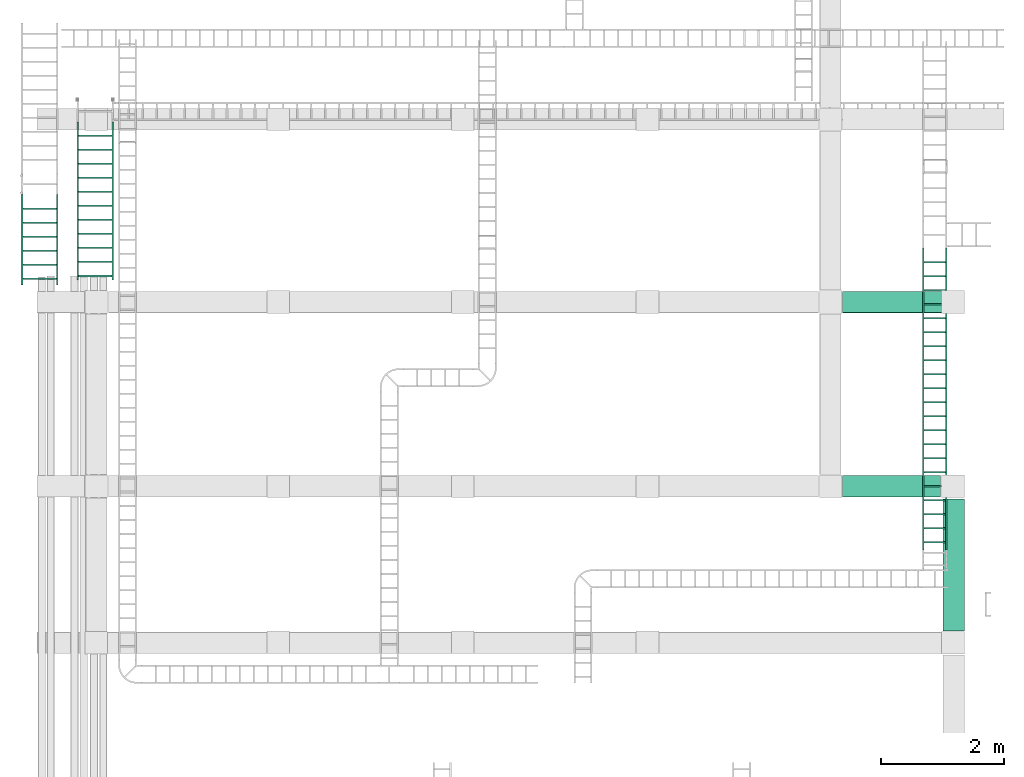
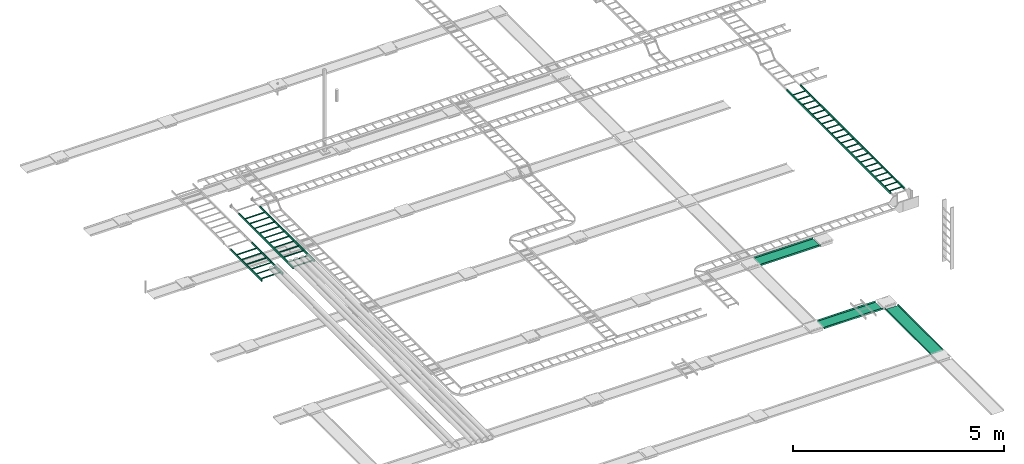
# One storey, part 8 of 16: 6 flow segments.
"""IFC2X3 building model written with IfcOpenShell, lengths in millimetres."""

from ifc_helpers import new_model, entity, si_unit, converted_unit, derived_unit, direction, frame, origin_with_axes, place, context, subcontext, project, spatial, open_shell, surface_model, source, transform, mapped, type_object, element, save


model = new_model("IFC2X3")

# Units and contexts
model_context = context("Model", 3, precision=0.01, world=frame((0.0, 4.29681676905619e-09, 0.0)), true_north=direction((4.01073788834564e-13, 1.0)))
plan_context = context("Plan", 3, precision=0.01, world=frame((0.0, 4.29681676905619e-09, 0.0)), true_north=direction((4.01073788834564e-13, 1.0)))
body_context = subcontext(model_context, "Body", "Model", "MODEL_VIEW")
ifc_project = project(units=[converted_unit("PLANEANGLEUNIT", "DEGREE", entity("IfcPositiveLengthMeasure", 0.0174532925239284), si_unit("PLANEANGLEUNIT", "RADIAN"), dimensions=[0, 0, 0, 0, 0, 0, 0]), si_unit("AREAUNIT", "SQUARE_METRE"), si_unit("LENGTHUNIT", "METRE", prefix="MILLI"), si_unit("MASSUNIT", "GRAM", prefix="KILO"), si_unit("POWERUNIT", "WATT"), si_unit("PRESSUREUNIT", "PASCAL"), si_unit("FORCEUNIT", "NEWTON", prefix="KILO"), si_unit("ELECTRICVOLTAGEUNIT", "VOLT"), si_unit("ELECTRICCURRENTUNIT", "AMPERE"), si_unit("THERMODYNAMICTEMPERATUREUNIT", "DEGREE_CELSIUS"), si_unit("TIMEUNIT", "SECOND"), si_unit("VOLUMEUNIT", "CUBIC_METRE"), derived_unit("LINEARVELOCITYUNIT", [(si_unit("LENGTHUNIT", "METRE"), 1), (si_unit("TIMEUNIT", "SECOND"), -1)]), derived_unit("VOLUMETRICFLOWRATEUNIT", [(si_unit("VOLUMEUNIT", "CUBIC_METRE"), 1), (si_unit("TIMEUNIT", "SECOND"), -1)]), derived_unit("THERMALTRANSMITTANCEUNIT", [(si_unit("POWERUNIT", "WATT"), 1), (si_unit("THERMODYNAMICTEMPERATUREUNIT", "KELVIN"), -1), (si_unit("AREAUNIT", "SQUARE_METRE"), -1)]), derived_unit("SOUNDPRESSUREUNIT", [(si_unit("PRESSUREUNIT", "PASCAL"), 1)])], contexts=[model_context, plan_context])

# Site, building, storey
site_placement = place(None, frame((0.0, -4.29681676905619e-09, 0.0), z_axis=(0.0, 0.0, 1.0), x_axis=(1.0, 0.0, 0.0)))
site = spatial("IfcSite", under=ifc_project, at=site_placement, Name="ENGM", CompositionType="ELEMENT")
building_placement = place(site_placement, frame((0.0, 4.29681676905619e-09, 0.0), z_axis=(0.0, 0.0, 1.0), x_axis=(1.0, 0.0, 0.0)))
building = spatial("IfcBuilding", under=site, at=building_placement, Name="TS", CompositionType="ELEMENT")
storey_placement = place(building_placement, frame((0.0, 0.0, 210900.0), z_axis=(0.0, 0.0, 1.0), x_axis=(1.0, 0.0, 0.0)))
storey = spatial("IfcBuildingStorey", under=building, at=storey_placement, Name="Nivå F", CompositionType="ELEMENT", Elevation=210900.0)

# Flow segments
cable_carrier_segment_type_1 = type_object("IfcCableCarrierSegmentType", Name="Kabelbro", PredefinedType="CABLELADDERSEGMENT")
shared_shape_1 = source(origin_with_axes(), body_context, "Body", "SurfaceModel", [
    surface_model("IfcShellBasedSurfaceModel", [(0.0, -300.0, -30.0), (0.0, -300.0, 30.0), (0.0, -274.60001, 30.0), (0.0, -274.60001, -30.0), (0.0, 274.60001, -30.0), (0.0, 274.60001, 30.0), (0.0, 300.0, 30.0), (0.0, 300.0, -30.0), (215.89999, -274.60001, -30.0), (241.30001, -274.60001, -30.0), (241.30001, -274.60001, -4.6), (215.89999, -274.60001, -4.6), (241.30001, 274.60001, -4.6), (241.30001, 274.60001, -30.0), (215.89999, 274.60001, -30.0), (215.89999, 274.60001, -4.6), (444.50001, -274.60001, -30.0), (469.89999, -274.60001, -30.0), (469.89999, -274.60001, -4.6), (444.50001, -274.60001, -4.6), (469.89999, 274.60001, -4.6), (469.89999, 274.60001, -30.0), (444.50001, 274.60001, -30.0), (444.50001, 274.60001, -4.6), (673.09998, -274.60001, -30.0), (698.50002, -274.60001, -30.0), (698.50002, -274.60001, -4.6), (673.09998, -274.60001, -4.6), (698.50002, 274.60001, -4.6), (698.50002, 274.60001, -30.0), (673.09998, 274.60001, -30.0), (673.09998, 274.60001, -4.6), (901.69998, -274.60001, -30.0), (927.10002, -274.60001, -30.0), (927.10002, -274.60001, -4.6), (901.69998, -274.60001, -4.6), (927.10002, 274.60001, -4.6), (927.10002, 274.60001, -30.0), (901.69998, 274.60001, -30.0), (901.69998, 274.60001, -4.6), (1130.29998, -274.60001, -30.0), (1155.70002, -274.60001, -30.0), (1155.70002, -274.60001, -4.6), (1130.29998, -274.60001, -4.6), (1155.70002, 274.60001, -4.6), (1155.70002, 274.60001, -30.0), (1130.29998, 274.60001, -30.0), (1130.29998, 274.60001, -4.6), (1358.90005, -274.60001, -30.0), (1384.29995, -274.60001, -30.0), (1384.29995, -274.60001, -4.6), (1358.90005, -274.60001, -4.6), (1384.29995, 274.60001, -4.6), (1384.29995, 274.60001, -30.0), (1358.90005, 274.60001, -30.0), (1358.90005, 274.60001, -4.6), (1472.79586, -274.60001, 30.0), (1472.79586, -300.0, 30.0), (1472.79586, -300.0, -30.0), (1472.79586, -274.60001, -30.0), (1472.79586, 300.0, 30.0), (1472.79586, 274.60001, 30.0), (1472.79586, 274.60001, -30.0), (1472.79586, 300.0, -30.0)], [open_shell([[[0, 1, 2]], [[2, 3, 0]], [[4, 5, 6]], [[6, 7, 4]], [[8, 9, 10]], [[10, 11, 8]], [[12, 13, 14]], [[14, 15, 12]], [[10, 9, 12]], [[13, 12, 9]], [[11, 10, 15]], [[12, 15, 10]], [[8, 11, 14]], [[15, 14, 11]], [[9, 8, 13]], [[14, 13, 8]], [[16, 17, 18]], [[18, 19, 16]], [[20, 21, 22]], [[22, 23, 20]], [[18, 17, 20]], [[21, 20, 17]], [[19, 18, 23]], [[20, 23, 18]], [[16, 19, 22]], [[23, 22, 19]], [[17, 16, 21]], [[22, 21, 16]], [[24, 25, 26]], [[26, 27, 24]], [[28, 29, 30]], [[30, 31, 28]], [[26, 25, 28]], [[29, 28, 25]], [[27, 26, 31]], [[28, 31, 26]], [[24, 27, 30]], [[31, 30, 27]], [[25, 24, 29]], [[30, 29, 24]], [[32, 33, 34]], [[34, 35, 32]], [[36, 37, 38]], [[38, 39, 36]], [[34, 33, 36]], [[37, 36, 33]], [[35, 34, 39]], [[36, 39, 34]], [[32, 35, 38]], [[39, 38, 35]], [[33, 32, 37]], [[38, 37, 32]], [[40, 41, 42]], [[42, 43, 40]], [[44, 45, 46]], [[46, 47, 44]], [[42, 41, 44]], [[45, 44, 41]], [[43, 42, 47]], [[44, 47, 42]], [[40, 43, 46]], [[47, 46, 43]], [[41, 40, 45]], [[46, 45, 40]], [[48, 49, 50]], [[50, 51, 48]], [[52, 53, 54]], [[54, 55, 52]], [[50, 49, 52]], [[53, 52, 49]], [[51, 50, 55]], [[52, 55, 50]], [[48, 51, 54]], [[55, 54, 51]], [[49, 48, 53]], [[54, 53, 48]], [[56, 57, 58]], [[58, 59, 56]], [[60, 61, 62]], [[62, 63, 60]], [[1, 0, 57]], [[58, 57, 0]], [[2, 1, 57]], [[57, 56, 2]], [[3, 2, 59]], [[56, 59, 2]], [[0, 3, 59]], [[59, 58, 0]], [[7, 6, 63]], [[60, 63, 6]], [[4, 7, 63]], [[63, 62, 4]], [[5, 4, 61]], [[62, 61, 4]], [[6, 5, 61]], [[61, 60, 6]]])]),
])
flow_segment_1_placement = place(storey_placement, frame((520589.0125, 450766.9625, 3925.0), z_axis=(0.0, 0.0, 1.0), x_axis=(0.0, -1.0, 0.0)))
element("IfcFlowSegment", 1, at=flow_segment_1_placement, inside=storey, type_object=cable_carrier_segment_type_1, Name="Kabelbro", context=body_context, shape_type="MappedRepresentation", body=[
    mapped(shared_shape_1, transform((0.0, 0.0, 0.0), scale=1.0)),
])
shared_shape_2 = source(origin_with_axes(), body_context, "Body", "SurfaceModel", [
    surface_model("IfcShellBasedSurfaceModel", [(0.0, -300.0, -30.0), (0.0, -300.0, 30.0), (0.0, -274.60001, 30.0), (0.0, -274.60001, -30.0), (0.0, 274.60001, -30.0), (0.0, 274.60001, 30.0), (0.0, 300.0, 30.0), (0.0, 300.0, -30.0), (215.89999, -274.60001, -30.0), (241.30001, -274.60001, -30.0), (241.30001, -274.60001, -4.6), (215.89999, -274.60001, -4.6), (241.30001, 274.60001, -4.6), (241.30001, 274.60001, -30.0), (215.89999, 274.60001, -30.0), (215.89999, 274.60001, -4.6), (444.50001, -274.60001, -30.0), (469.89999, -274.60001, -30.0), (469.89999, -274.60001, -4.6), (444.50001, -274.60001, -4.6), (469.89999, 274.60001, -4.6), (469.89999, 274.60001, -30.0), (444.50001, 274.60001, -30.0), (444.50001, 274.60001, -4.6), (673.09998, -274.60001, -30.0), (698.50002, -274.60001, -30.0), (698.50002, -274.60001, -4.6), (673.09998, -274.60001, -4.6), (698.50002, 274.60001, -4.6), (698.50002, 274.60001, -30.0), (673.09998, 274.60001, -30.0), (673.09998, 274.60001, -4.6), (901.69998, -274.60001, -30.0), (927.10002, -274.60001, -30.0), (927.10002, -274.60001, -4.6), (901.69998, -274.60001, -4.6), (927.10002, 274.60001, -4.6), (927.10002, 274.60001, -30.0), (901.69998, 274.60001, -30.0), (901.69998, 274.60001, -4.6), (1130.29998, -274.60001, -30.0), (1155.70002, -274.60001, -30.0), (1155.70002, -274.60001, -4.6), (1130.29998, -274.60001, -4.6), (1155.70002, 274.60001, -4.6), (1155.70002, 274.60001, -30.0), (1130.29998, 274.60001, -30.0), (1130.29998, 274.60001, -4.6), (1358.90005, -274.60001, -30.0), (1384.29995, -274.60001, -30.0), (1384.29995, -274.60001, -4.6), (1358.90005, -274.60001, -4.6), (1384.29995, 274.60001, -4.6), (1384.29995, 274.60001, -30.0), (1358.90005, 274.60001, -30.0), (1358.90005, 274.60001, -4.6), (1587.50005, -274.60001, -30.0), (1612.89995, -274.60001, -30.0), (1612.89995, -274.60001, -4.6), (1587.50005, -274.60001, -4.6), (1612.89995, 274.60001, -4.6), (1612.89995, 274.60001, -30.0), (1587.50005, 274.60001, -30.0), (1587.50005, 274.60001, -4.6), (1816.10005, -274.60001, -30.0), (1841.49995, -274.60001, -30.0), (1841.49995, -274.60001, -4.6), (1816.10005, -274.60001, -4.6), (1841.49995, 274.60001, -4.6), (1841.49995, 274.60001, -30.0), (1816.10005, 274.60001, -30.0), (1816.10005, 274.60001, -4.6), (2044.70005, -274.60001, -30.0), (2070.09995, -274.60001, -30.0), (2070.09995, -274.60001, -4.6), (2044.70005, -274.60001, -4.6), (2070.09995, 274.60001, -4.6), (2070.09995, 274.60001, -30.0), (2044.70005, 274.60001, -30.0), (2044.70005, 274.60001, -4.6), (2273.30005, -274.60001, -30.0), (2298.69995, -274.60001, -30.0), (2298.69995, -274.60001, -4.6), (2273.30005, -274.60001, -4.6), (2298.69995, 274.60001, -4.6), (2298.69995, 274.60001, -30.0), (2273.30005, 274.60001, -30.0), (2273.30005, 274.60001, -4.6), (2501.8999, -274.60001, -30.0), (2527.3001, -274.60001, -30.0), (2527.3001, -274.60001, -4.6), (2501.8999, -274.60001, -4.6), (2527.3001, 274.60001, -4.6), (2527.3001, 274.60001, -30.0), (2501.8999, 274.60001, -30.0), (2501.8999, 274.60001, -4.6), (2580.25355, -274.60001, 30.0), (2580.25355, -300.0, 30.0), (2580.25355, -300.0, -30.0), (2580.25355, -274.60001, -30.0), (2580.25355, 300.0, 30.0), (2580.25355, 274.60001, 30.0), (2580.25355, 274.60001, -30.0), (2580.25355, 300.0, -30.0)], [open_shell([[[0, 1, 2]], [[2, 3, 0]], [[4, 5, 6]], [[6, 7, 4]], [[8, 9, 10]], [[10, 11, 8]], [[12, 13, 14]], [[14, 15, 12]], [[10, 9, 12]], [[13, 12, 9]], [[11, 10, 15]], [[12, 15, 10]], [[8, 11, 14]], [[15, 14, 11]], [[9, 8, 13]], [[14, 13, 8]], [[16, 17, 18]], [[18, 19, 16]], [[20, 21, 22]], [[22, 23, 20]], [[18, 17, 20]], [[21, 20, 17]], [[19, 18, 23]], [[20, 23, 18]], [[16, 19, 22]], [[23, 22, 19]], [[17, 16, 21]], [[22, 21, 16]], [[24, 25, 26]], [[26, 27, 24]], [[28, 29, 30]], [[30, 31, 28]], [[26, 25, 28]], [[29, 28, 25]], [[27, 26, 31]], [[28, 31, 26]], [[24, 27, 30]], [[31, 30, 27]], [[25, 24, 29]], [[30, 29, 24]], [[32, 33, 34]], [[34, 35, 32]], [[36, 37, 38]], [[38, 39, 36]], [[34, 33, 36]], [[37, 36, 33]], [[35, 34, 39]], [[36, 39, 34]], [[32, 35, 38]], [[39, 38, 35]], [[33, 32, 37]], [[38, 37, 32]], [[40, 41, 42]], [[42, 43, 40]], [[44, 45, 46]], [[46, 47, 44]], [[42, 41, 44]], [[45, 44, 41]], [[43, 42, 47]], [[44, 47, 42]], [[40, 43, 46]], [[47, 46, 43]], [[41, 40, 45]], [[46, 45, 40]], [[48, 49, 50]], [[50, 51, 48]], [[52, 53, 54]], [[54, 55, 52]], [[50, 49, 52]], [[53, 52, 49]], [[51, 50, 55]], [[52, 55, 50]], [[48, 51, 54]], [[55, 54, 51]], [[49, 48, 53]], [[54, 53, 48]], [[56, 57, 58]], [[58, 59, 56]], [[60, 61, 62]], [[62, 63, 60]], [[58, 57, 60]], [[61, 60, 57]], [[59, 58, 63]], [[60, 63, 58]], [[56, 59, 62]], [[63, 62, 59]], [[57, 56, 61]], [[62, 61, 56]], [[64, 65, 66]], [[66, 67, 64]], [[68, 69, 70]], [[70, 71, 68]], [[66, 65, 68]], [[69, 68, 65]], [[67, 66, 71]], [[68, 71, 66]], [[64, 67, 70]], [[71, 70, 67]], [[65, 64, 69]], [[70, 69, 64]], [[72, 73, 74]], [[74, 75, 72]], [[76, 77, 78]], [[78, 79, 76]], [[74, 73, 76]], [[77, 76, 73]], [[75, 74, 79]], [[76, 79, 74]], [[72, 75, 78]], [[79, 78, 75]], [[73, 72, 77]], [[78, 77, 72]], [[80, 81, 82]], [[82, 83, 80]], [[84, 85, 86]], [[86, 87, 84]], [[82, 81, 84]], [[85, 84, 81]], [[83, 82, 87]], [[84, 87, 82]], [[80, 83, 86]], [[87, 86, 83]], [[81, 80, 85]], [[86, 85, 80]], [[88, 89, 90]], [[90, 91, 88]], [[92, 93, 94]], [[94, 95, 92]], [[90, 89, 92]], [[93, 92, 89]], [[91, 90, 95]], [[92, 95, 90]], [[88, 91, 94]], [[95, 94, 91]], [[89, 88, 93]], [[94, 93, 88]], [[96, 97, 98]], [[98, 99, 96]], [[100, 101, 102]], [[102, 103, 100]], [[1, 0, 98]], [[98, 97, 1]], [[2, 1, 97]], [[97, 96, 2]], [[3, 2, 96]], [[96, 99, 3]], [[0, 3, 99]], [[99, 98, 0]], [[7, 6, 100]], [[100, 103, 7]], [[4, 7, 103]], [[103, 102, 4]], [[5, 4, 102]], [[102, 101, 5]], [[6, 5, 101]], [[101, 100, 6]]])]),
])
flow_segment_2_placement = place(storey_placement, frame((521496.73076, 451954.42016, 3925.0), z_axis=(0.0, 0.0, 1.0), x_axis=(0.0, -1.0, 0.0)))
element("IfcFlowSegment", 2, at=flow_segment_2_placement, inside=storey, type_object=cable_carrier_segment_type_1, Name="Kabelbro", context=body_context, shape_type="MappedRepresentation", body=[
    mapped(shared_shape_2, transform((0.0, 0.0, 0.0), scale=1.0)),
])
cable_carrier_segment_type_2 = type_object("IfcCableCarrierSegmentType", Name="Kabelbane", PredefinedType="CABLETRAYSEGMENT")
shared_shape_3 = source(origin_with_axes(), body_context, "Body", "SurfaceModel", [
    surface_model("IfcShellBasedSurfaceModel", [(0.0, -175.0, 25.0), (0.0, -172.46, -22.46), (0.0, -175.0, -25.0), (0.0, 175.0, -25.0), (0.0, -172.46, 25.0), (0.0, 175.0, 25.0), (0.0, 172.46, -22.46), (0.0, 172.46, 25.0), (1625.79001, -175.0, -25.0), (1625.79001, -172.46, -22.46), (1625.79001, -175.0, 25.0), (1625.79001, 175.0, -25.0), (1625.79001, -172.46, 25.0), (1625.79001, 172.46, -22.46), (1625.79001, 175.0, 25.0), (1625.79001, 172.46, 25.0)], [open_shell([[[0, 1, 2]], [[3, 2, 1]], [[1, 0, 4]], [[5, 3, 6]], [[1, 6, 3]], [[6, 7, 5]], [[8, 9, 10]], [[9, 8, 11]], [[12, 10, 9]], [[13, 11, 14]], [[11, 13, 9]], [[14, 15, 13]], [[0, 2, 8]], [[8, 10, 0]], [[4, 0, 12]], [[10, 12, 0]], [[1, 4, 9]], [[12, 9, 4]], [[6, 1, 13]], [[9, 13, 1]], [[7, 6, 15]], [[13, 15, 6]], [[5, 7, 14]], [[15, 14, 7]], [[3, 5, 14]], [[14, 11, 3]], [[2, 3, 11]], [[11, 8, 2]]])]),
])
flow_segment_3_placement = place(storey_placement, frame((533684.50798, 449014.16475, -35.0), z_axis=(0.0, 0.0, 1.0), x_axis=(1.0, 0.0, 0.0)))
element("IfcFlowSegment", 3, at=flow_segment_3_placement, inside=storey, type_object=cable_carrier_segment_type_2, Name="Kabelbane", context=body_context, shape_type="MappedRepresentation", body=[
    mapped(shared_shape_3, transform((0.0, 0.0, 0.0), scale=1.0)),
])
shared_shape_4 = source(origin_with_axes(), body_context, "Body", "SurfaceModel", [
    surface_model("IfcShellBasedSurfaceModel", [(0.0, -175.0, 25.0), (0.0, -172.46, -22.46), (0.0, -175.0, -25.0), (0.0, -172.46, 25.0), (0.0, 175.0, 25.0), (0.0, 175.0, -25.0), (0.0, 172.46, -22.46), (0.0, 172.46, 25.0), (1600.00001, 175.0, 25.0), (1600.00001, 172.46, 25.0), (1600.00001, 172.46, -22.46), (1600.00001, 175.0, -25.0), (1600.00001, -175.0, -25.0), (1600.00001, -172.46, 25.0), (1600.00001, -175.0, 25.0), (1600.00001, -172.46, -22.46)], [open_shell([[[0, 1, 2]], [[1, 0, 3]], [[4, 5, 6]], [[6, 7, 4]], [[2, 6, 5]], [[6, 2, 1]], [[8, 9, 10]], [[11, 10, 12]], [[10, 11, 8]], [[13, 14, 15]], [[15, 12, 10]], [[12, 15, 14]], [[0, 2, 14]], [[12, 14, 2]], [[3, 0, 13]], [[14, 13, 0]], [[1, 3, 13]], [[13, 15, 1]], [[6, 1, 15]], [[15, 10, 6]], [[7, 6, 10]], [[10, 9, 7]], [[4, 7, 8]], [[9, 8, 7]], [[5, 4, 11]], [[8, 11, 4]], [[2, 5, 12]], [[11, 12, 5]]])]),
])
flow_segment_4_placement = place(storey_placement, frame((533684.50798, 446009.60271, -35.0), z_axis=(0.0, 0.0, 1.0), x_axis=(1.0, 0.0, 0.0)))
element("IfcFlowSegment", 4, at=flow_segment_4_placement, inside=storey, type_object=cable_carrier_segment_type_2, Name="Kabelbane", context=body_context, shape_type="MappedRepresentation", body=[
    mapped(shared_shape_4, transform((0.0, 0.0, 0.0), scale=1.0)),
])
shared_shape_5 = source(origin_with_axes(), body_context, "Body", "SurfaceModel", [
    surface_model("IfcShellBasedSurfaceModel", [(0.0, -175.0, 25.0), (0.0, -172.46, -22.46), (0.0, -175.0, -25.0), (0.0, 175.0, -25.0), (0.0, -172.46, 25.0), (0.0, 175.0, 25.0), (0.0, 172.46, -22.46), (0.0, 172.46, 25.0), (2155.0, -172.46, 25.0), (2155.0, -175.0, 25.0), (2155.0, -172.46, -22.46), (2155.0, 175.0, 25.0), (2155.0, 172.46, 25.0), (2155.0, 172.46, -22.46), (2155.0, -175.0, -25.0), (2155.0, 175.0, -25.0)], [open_shell([[[0, 1, 2]], [[3, 2, 1]], [[1, 0, 4]], [[5, 3, 6]], [[1, 6, 3]], [[6, 7, 5]], [[8, 9, 10]], [[11, 12, 13]], [[10, 14, 15]], [[14, 10, 9]], [[13, 15, 11]], [[15, 13, 10]], [[0, 2, 9]], [[14, 9, 2]], [[4, 0, 8]], [[9, 8, 0]], [[1, 4, 8]], [[8, 10, 1]], [[6, 1, 10]], [[10, 13, 6]], [[7, 6, 13]], [[13, 12, 7]], [[5, 7, 11]], [[12, 11, 7]], [[3, 5, 15]], [[11, 15, 5]], [[2, 3, 15]], [[15, 14, 2]]])]),
])
flow_segment_5_placement = place(storey_placement, frame((535500.29798, 445804.42977, -35.0), z_axis=(0.0, 0.0, 1.0), x_axis=(0.0, -1.0, 0.0)))
element("IfcFlowSegment", 5, at=flow_segment_5_placement, inside=storey, type_object=cable_carrier_segment_type_2, Name="Kabelbane", context=body_context, shape_type="MappedRepresentation", body=[
    mapped(shared_shape_5, transform((0.0, 0.0, 0.0), scale=1.0)),
])
shared_shape_6 = source(origin_with_axes(), body_context, "Body", "SurfaceModel", [
    surface_model("IfcShellBasedSurfaceModel", [(0.0, -174.60001, 30.0), (0.0, -174.60001, -30.0), (0.0, -200.0, -30.0), (0.0, -200.0, 30.0), (0.0, 200.0, 30.0), (0.0, 200.0, -30.0), (0.0, 174.60001, -30.0), (0.0, 174.60001, 30.0), (215.89999, -174.60001, -30.0), (241.30001, -174.60001, -30.0), (241.30001, -174.60001, -4.6), (215.89999, -174.60001, -4.6), (241.30001, 174.60001, -4.6), (241.30001, 174.60001, -30.0), (215.89999, 174.60001, -30.0), (215.89999, 174.60001, -4.6), (444.50001, -174.60001, -30.0), (469.89999, -174.60001, -30.0), (469.89999, -174.60001, -4.6), (444.50001, -174.60001, -4.6), (469.89999, 174.60001, -4.6), (469.89999, 174.60001, -30.0), (444.50001, 174.60001, -30.0), (444.50001, 174.60001, -4.6), (673.09998, -174.60001, -30.0), (698.50002, -174.60001, -30.0), (698.50002, -174.60001, -4.6), (673.09998, -174.60001, -4.6), (698.50002, 174.60001, -4.6), (698.50002, 174.60001, -30.0), (673.09998, 174.60001, -30.0), (673.09998, 174.60001, -4.6), (901.69998, -174.60001, -30.0), (927.10002, -174.60001, -30.0), (927.10002, -174.60001, -4.6), (901.69998, -174.60001, -4.6), (927.10002, 174.60001, -4.6), (927.10002, 174.60001, -30.0), (901.69998, 174.60001, -30.0), (901.69998, 174.60001, -4.6), (1130.29998, -174.60001, -30.0), (1155.70002, -174.60001, -30.0), (1155.70002, -174.60001, -4.6), (1130.29998, -174.60001, -4.6), (1155.70002, 174.60001, -4.6), (1155.70002, 174.60001, -30.0), (1130.29998, 174.60001, -30.0), (1130.29998, 174.60001, -4.6), (1358.90005, -174.60001, -30.0), (1384.29995, -174.60001, -30.0), (1384.29995, -174.60001, -4.6), (1358.90005, -174.60001, -4.6), (1384.29995, 174.60001, -4.6), (1384.29995, 174.60001, -30.0), (1358.90005, 174.60001, -30.0), (1358.90005, 174.60001, -4.6), (1587.50005, -174.60001, -30.0), (1612.89995, -174.60001, -30.0), (1612.89995, -174.60001, -4.6), (1587.50005, -174.60001, -4.6), (1612.89995, 174.60001, -4.6), (1612.89995, 174.60001, -30.0), (1587.50005, 174.60001, -30.0), (1587.50005, 174.60001, -4.6), (1816.10005, -174.60001, -30.0), (1841.49995, -174.60001, -30.0), (1841.49995, -174.60001, -4.6), (1816.10005, -174.60001, -4.6), (1841.49995, 174.60001, -4.6), (1841.49995, 174.60001, -30.0), (1816.10005, 174.60001, -30.0), (1816.10005, 174.60001, -4.6), (2044.70005, -174.60001, -30.0), (2070.09995, -174.60001, -30.0), (2070.09995, -174.60001, -4.6), (2044.70005, -174.60001, -4.6), (2070.09995, 174.60001, -4.6), (2070.09995, 174.60001, -30.0), (2044.70005, 174.60001, -30.0), (2044.70005, 174.60001, -4.6), (2273.30005, -174.60001, -30.0), (2298.69995, -174.60001, -30.0), (2298.69995, -174.60001, -4.6), (2273.30005, -174.60001, -4.6), (2298.69995, 174.60001, -4.6), (2298.69995, 174.60001, -30.0), (2273.30005, 174.60001, -30.0), (2273.30005, 174.60001, -4.6), (2501.8999, -174.60001, -30.0), (2527.3001, -174.60001, -30.0), (2527.3001, -174.60001, -4.6), (2501.8999, -174.60001, -4.6), (2527.3001, 174.60001, -4.6), (2527.3001, 174.60001, -30.0), (2501.8999, 174.60001, -30.0), (2501.8999, 174.60001, -4.6), (2730.4999, -174.60001, -30.0), (2755.9001, -174.60001, -30.0), (2755.9001, -174.60001, -4.6), (2730.4999, -174.60001, -4.6), (2755.9001, 174.60001, -4.6), (2755.9001, 174.60001, -30.0), (2730.4999, 174.60001, -30.0), (2730.4999, 174.60001, -4.6), (2959.0999, -174.60001, -30.0), (2984.5001, -174.60001, -30.0), (2984.5001, -174.60001, -4.6), (2959.0999, -174.60001, -4.6), (2984.5001, 174.60001, -4.6), (2984.5001, 174.60001, -30.0), (2959.0999, 174.60001, -30.0), (2959.0999, 174.60001, -4.6), (3187.6999, -174.60001, -30.0), (3213.1001, -174.60001, -30.0), (3213.1001, -174.60001, -4.6), (3187.6999, -174.60001, -4.6), (3213.1001, 174.60001, -4.6), (3213.1001, 174.60001, -30.0), (3187.6999, 174.60001, -30.0), (3187.6999, 174.60001, -4.6), (3416.2999, -174.60001, -30.0), (3441.7001, -174.60001, -30.0), (3441.7001, -174.60001, -4.6), (3416.2999, -174.60001, -4.6), (3441.7001, 174.60001, -4.6), (3441.7001, 174.60001, -30.0), (3416.2999, 174.60001, -30.0), (3416.2999, 174.60001, -4.6), (3644.8999, -174.60001, -30.0), (3670.3001, -174.60001, -30.0), (3670.3001, -174.60001, -4.6), (3644.8999, -174.60001, -4.6), (3670.3001, 174.60001, -4.6), (3670.3001, 174.60001, -30.0), (3644.8999, 174.60001, -30.0), (3644.8999, 174.60001, -4.6), (3873.4999, -174.60001, -30.0), (3898.9001, -174.60001, -30.0), (3898.9001, -174.60001, -4.6), (3873.4999, -174.60001, -4.6), (3898.9001, 174.60001, -4.6), (3898.9001, 174.60001, -30.0), (3873.4999, 174.60001, -30.0), (3873.4999, 174.60001, -4.6), (4102.0999, -174.60001, -30.0), (4127.5001, -174.60001, -30.0), (4127.5001, -174.60001, -4.6), (4102.0999, -174.60001, -4.6), (4127.5001, 174.60001, -4.6), (4127.5001, 174.60001, -30.0), (4102.0999, 174.60001, -30.0), (4102.0999, 174.60001, -4.6), (4330.6999, -174.60001, -30.0), (4356.1001, -174.60001, -30.0), (4356.1001, -174.60001, -4.6), (4330.6999, -174.60001, -4.6), (4356.1001, 174.60001, -4.6), (4356.1001, 174.60001, -30.0), (4330.6999, 174.60001, -30.0), (4330.6999, 174.60001, -4.6), (4584.7001, -174.60001, -4.6), (4584.7001, -174.60001, -30.0), (4584.7001, 174.60001, -30.0), (4584.7001, 174.60001, -4.6), (4559.2999, -174.60001, -4.6), (4559.2999, 174.60001, -4.6), (4559.2999, -174.60001, -30.0), (4559.2999, 174.60001, -30.0), (4813.3001, -174.60001, -4.6), (4813.3001, -174.60001, -30.0), (4813.3001, 174.60001, -30.0), (4813.3001, 174.60001, -4.6), (4787.8999, -174.60001, -4.6), (4787.8999, 174.60001, -4.6), (4787.8999, -174.60001, -30.0), (4787.8999, 174.60001, -30.0), (4923.26635, -174.60001, 30.0), (4923.26635, -200.0, 30.0), (4923.26635, -200.0, -30.0), (4923.26635, -174.60001, -30.0), (4923.26635, 200.0, 30.0), (4923.26635, 174.60001, 30.0), (4923.26635, 174.60001, -30.0), (4923.26635, 200.0, -30.0)], [open_shell([[[0, 1, 2]], [[2, 3, 0]], [[4, 5, 6]], [[6, 7, 4]], [[8, 9, 10]], [[10, 11, 8]], [[12, 13, 14]], [[14, 15, 12]], [[10, 9, 13]], [[13, 12, 10]], [[11, 10, 15]], [[12, 15, 10]], [[8, 11, 15]], [[15, 14, 8]], [[9, 8, 13]], [[14, 13, 8]], [[16, 17, 18]], [[18, 19, 16]], [[20, 21, 22]], [[22, 23, 20]], [[18, 17, 21]], [[21, 20, 18]], [[19, 18, 23]], [[20, 23, 18]], [[16, 19, 23]], [[23, 22, 16]], [[17, 16, 21]], [[22, 21, 16]], [[24, 25, 26]], [[26, 27, 24]], [[28, 29, 30]], [[30, 31, 28]], [[26, 25, 29]], [[29, 28, 26]], [[27, 26, 31]], [[28, 31, 26]], [[24, 27, 31]], [[31, 30, 24]], [[25, 24, 29]], [[30, 29, 24]], [[32, 33, 34]], [[34, 35, 32]], [[36, 37, 38]], [[38, 39, 36]], [[34, 33, 37]], [[37, 36, 34]], [[35, 34, 39]], [[36, 39, 34]], [[32, 35, 39]], [[39, 38, 32]], [[33, 32, 37]], [[38, 37, 32]], [[40, 41, 42]], [[42, 43, 40]], [[44, 45, 46]], [[46, 47, 44]], [[42, 41, 45]], [[45, 44, 42]], [[43, 42, 47]], [[44, 47, 42]], [[40, 43, 47]], [[47, 46, 40]], [[41, 40, 45]], [[46, 45, 40]], [[48, 49, 50]], [[50, 51, 48]], [[52, 53, 54]], [[54, 55, 52]], [[50, 49, 53]], [[53, 52, 50]], [[51, 50, 55]], [[52, 55, 50]], [[48, 51, 55]], [[55, 54, 48]], [[49, 48, 53]], [[54, 53, 48]], [[56, 57, 58]], [[58, 59, 56]], [[60, 61, 62]], [[62, 63, 60]], [[58, 57, 61]], [[61, 60, 58]], [[59, 58, 63]], [[60, 63, 58]], [[56, 59, 63]], [[63, 62, 56]], [[57, 56, 61]], [[62, 61, 56]], [[64, 65, 66]], [[66, 67, 64]], [[68, 69, 70]], [[70, 71, 68]], [[66, 65, 69]], [[69, 68, 66]], [[67, 66, 71]], [[68, 71, 66]], [[64, 67, 71]], [[71, 70, 64]], [[65, 64, 69]], [[70, 69, 64]], [[72, 73, 74]], [[74, 75, 72]], [[76, 77, 78]], [[78, 79, 76]], [[74, 73, 77]], [[77, 76, 74]], [[75, 74, 79]], [[76, 79, 74]], [[72, 75, 79]], [[79, 78, 72]], [[73, 72, 77]], [[78, 77, 72]], [[80, 81, 82]], [[82, 83, 80]], [[84, 85, 86]], [[86, 87, 84]], [[82, 81, 85]], [[85, 84, 82]], [[83, 82, 87]], [[84, 87, 82]], [[80, 83, 87]], [[87, 86, 80]], [[81, 80, 85]], [[86, 85, 80]], [[88, 89, 90]], [[90, 91, 88]], [[92, 93, 94]], [[94, 95, 92]], [[90, 89, 93]], [[93, 92, 90]], [[91, 90, 95]], [[92, 95, 90]], [[88, 91, 95]], [[95, 94, 88]], [[89, 88, 93]], [[94, 93, 88]], [[96, 97, 98]], [[98, 99, 96]], [[100, 101, 102]], [[102, 103, 100]], [[98, 97, 101]], [[101, 100, 98]], [[99, 98, 103]], [[100, 103, 98]], [[96, 99, 103]], [[103, 102, 96]], [[97, 96, 101]], [[102, 101, 96]], [[104, 105, 106]], [[106, 107, 104]], [[108, 109, 110]], [[110, 111, 108]], [[106, 105, 109]], [[109, 108, 106]], [[107, 106, 111]], [[108, 111, 106]], [[104, 107, 111]], [[111, 110, 104]], [[105, 104, 109]], [[110, 109, 104]], [[112, 113, 114]], [[114, 115, 112]], [[116, 117, 118]], [[118, 119, 116]], [[114, 113, 117]], [[117, 116, 114]], [[115, 114, 119]], [[116, 119, 114]], [[112, 115, 119]], [[119, 118, 112]], [[113, 112, 117]], [[118, 117, 112]], [[120, 121, 122]], [[122, 123, 120]], [[124, 125, 126]], [[126, 127, 124]], [[122, 121, 125]], [[125, 124, 122]], [[123, 122, 127]], [[124, 127, 122]], [[120, 123, 127]], [[127, 126, 120]], [[121, 120, 125]], [[126, 125, 120]], [[128, 129, 130]], [[130, 131, 128]], [[132, 133, 134]], [[134, 135, 132]], [[130, 129, 133]], [[133, 132, 130]], [[131, 130, 135]], [[132, 135, 130]], [[128, 131, 135]], [[135, 134, 128]], [[129, 128, 133]], [[134, 133, 128]], [[136, 137, 138]], [[138, 139, 136]], [[140, 141, 142]], [[142, 143, 140]], [[138, 137, 141]], [[141, 140, 138]], [[139, 138, 143]], [[140, 143, 138]], [[136, 139, 143]], [[143, 142, 136]], [[137, 136, 141]], [[142, 141, 136]], [[144, 145, 146]], [[146, 147, 144]], [[148, 149, 150]], [[150, 151, 148]], [[146, 145, 149]], [[149, 148, 146]], [[147, 146, 151]], [[148, 151, 146]], [[144, 147, 151]], [[151, 150, 144]], [[145, 144, 149]], [[150, 149, 144]], [[152, 153, 154]], [[154, 155, 152]], [[156, 157, 158]], [[158, 159, 156]], [[154, 153, 157]], [[157, 156, 154]], [[155, 154, 159]], [[156, 159, 154]], [[152, 155, 159]], [[159, 158, 152]], [[153, 152, 157]], [[158, 157, 152]], [[160, 161, 162]], [[162, 163, 160]], [[164, 160, 165]], [[163, 165, 160]], [[166, 164, 165]], [[165, 167, 166]], [[161, 166, 162]], [[167, 162, 166]], [[168, 169, 170]], [[170, 171, 168]], [[172, 168, 173]], [[171, 173, 168]], [[174, 172, 173]], [[173, 175, 174]], [[169, 174, 170]], [[175, 170, 174]], [[166, 161, 160]], [[160, 164, 166]], [[163, 162, 167]], [[167, 165, 163]], [[174, 169, 168]], [[168, 172, 174]], [[171, 170, 175]], [[175, 173, 171]], [[176, 177, 178]], [[178, 179, 176]], [[180, 181, 182]], [[182, 183, 180]], [[3, 2, 178]], [[178, 177, 3]], [[0, 3, 176]], [[177, 176, 3]], [[1, 0, 179]], [[176, 179, 0]], [[2, 1, 178]], [[179, 178, 1]], [[5, 4, 183]], [[180, 183, 4]], [[6, 5, 182]], [[183, 182, 5]], [[7, 6, 182]], [[182, 181, 7]], [[4, 7, 180]], [[181, 180, 7]]])]),
])
flow_segment_6_placement = place(storey_placement, frame((535192.55901, 449895.21064, 3925.0), z_axis=(0.0, 0.0, 1.0), x_axis=(0.0, -1.0, 0.0)))
element("IfcFlowSegment", 6, at=flow_segment_6_placement, inside=storey, type_object=cable_carrier_segment_type_1, Name="Kabelbro", context=body_context, shape_type="MappedRepresentation", body=[
    mapped(shared_shape_6, transform((0.0, 0.0, 0.0), scale=1.0)),
])

save(model, "model.ifc")
